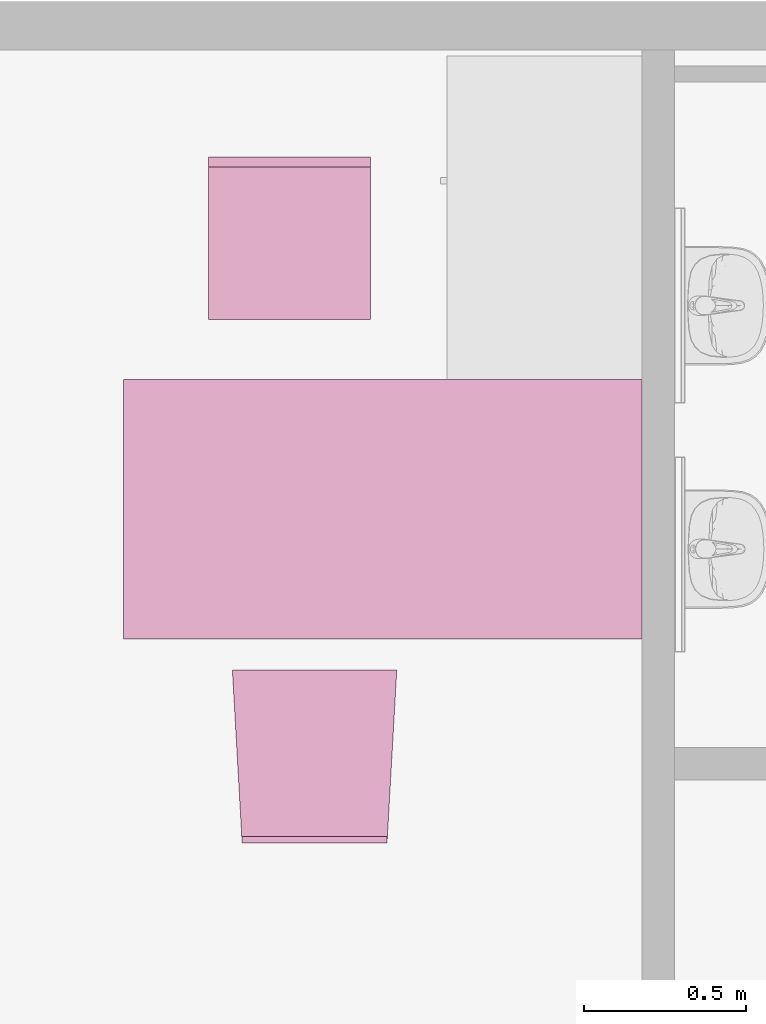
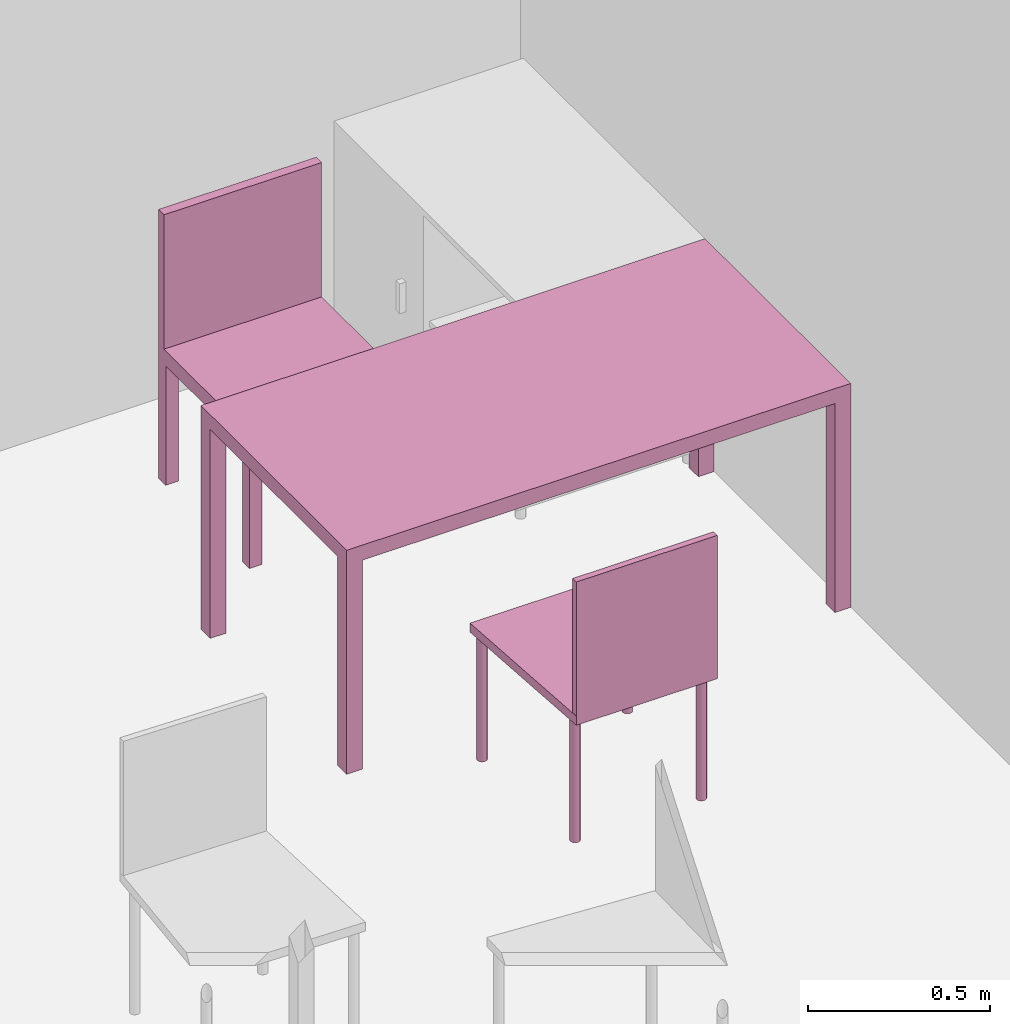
"""IFC4 building model written with IfcOpenShell, lengths in metres."""

from ifc_helpers import new_model, entity, si_unit, converted_unit, derived_unit, frame, origin, place, context, subcontext, project, spatial, faceted_brep, element, save


model = new_model("IFC4")

# Units and contexts
model_context = context("Model", 3, precision=1e-05, world=origin())
body_context = subcontext(model_context, "Body", "Model", "MODEL_VIEW")
ifc_project = project(units=[si_unit("LENGTHUNIT", "METRE"), si_unit("AREAUNIT", "SQUARE_METRE"), si_unit("VOLUMEUNIT", "CUBIC_METRE"), si_unit("MASSUNIT", "GRAM", prefix="KILO"), converted_unit("PLANEANGLEUNIT", "DEGREE", entity("IfcPlaneAngleMeasure", 0.0174532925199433), si_unit("PLANEANGLEUNIT", "RADIAN"), dimensions=[0, 0, 0, 0, 0, 0, 0]), derived_unit("THERMALTRANSMITTANCEUNIT", [(si_unit("POWERUNIT", "WATT"), 1), (si_unit("THERMODYNAMICTEMPERATUREUNIT", "KELVIN"), -1), (si_unit("LENGTHUNIT", "METRE"), -2)]), derived_unit("VOLUMETRICFLOWRATEUNIT", [(si_unit("LENGTHUNIT", "METRE"), 3), (converted_unit("TIMEUNIT", "hour", entity("IfcTimeMeasure", 3600.0), si_unit("TIMEUNIT", "SECOND"), dimensions=[0, 0, 1, 0, 0, 0, 0]), -1), (si_unit("LENGTHUNIT", "METRE"), -1)])], contexts=[model_context])

# Building, storeys
building_placement = place(None, origin())
building = spatial("IfcBuilding", under=ifc_project, at=building_placement, Name="HABITATGE PLURIFAMILIAR", CompositionType="ELEMENT")
storey_1_placement = place(building_placement, frame((0.0, 0.0, 6.25)))
storey_1 = spatial("IfcBuildingStorey", under=building, at=storey_1_placement, Name="PLANTA PRIMERA", CompositionType="ELEMENT", Elevation=6.25)
storey_2_placement = place(storey_1_placement, frame((0.0, 0.0, 3.35)))
storey_2 = spatial("IfcBuildingStorey", under=storey_1, at=storey_2_placement, Name="NOU", CompositionType="PARTIAL")

# Furniture
furniture_1_placement = place(storey_2_placement, frame((402.738874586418, 26.263451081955, -3.35)))
element("IfcFurniture", 1, at=furniture_1_placement, inside=storey_2, Name="Taula 160X80_P1", context=body_context, shape_type="Brep", body=[
    faceted_brep([(0.05, 0.05, 0.0), (0.0, 0.05, 0.0), (0.0, 0.0, 0.0), (0.05, 0.0, 0.0), (0.05, 0.0, 0.7), (0.0, 0.0, 0.7), (0.0, 0.05, 0.7), (0.05, 0.05, 0.7)], [[[0, 1, 2, 3]], [[4, 5, 6, 7]], [[3, 4, 7, 0]], [[2, 5, 4, 3]], [[1, 6, 5, 2]], [[0, 7, 6, 1]]], orient=[[False], [False], [False], [False], [False], [False]]),
    faceted_brep([(0.05, 0.800069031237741, 0.0), (0.0, 0.800069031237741, 0.0), (0.0, 0.750069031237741, 0.0), (0.05, 0.750069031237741, 0.0), (0.05, 0.750069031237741, 0.7), (0.0, 0.750069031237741, 0.7), (0.0, 0.800069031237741, 0.7), (0.05, 0.800069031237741, 0.7)], [[[0, 1, 2, 3]], [[4, 5, 6, 7]], [[3, 4, 7, 0]], [[2, 5, 4, 3]], [[1, 6, 5, 2]], [[0, 7, 6, 1]]], orient=[[False], [False], [False], [False], [False], [False]]),
    faceted_brep([(1.596945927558, 0.800069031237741, 0.7), (0.0, 0.800069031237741, 0.7), (0.0, 0.0, 0.7), (1.596945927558, 0.0, 0.7), (1.596945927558, 0.0, 0.75), (0.0, 0.0, 0.75), (0.0, 0.800069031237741, 0.75), (1.596945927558, 0.800069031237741, 0.75)], [[[0, 1, 2, 3]], [[4, 5, 6, 7]], [[3, 4, 7, 0]], [[2, 5, 4, 3]], [[1, 6, 5, 2]], [[0, 7, 6, 1]]], orient=[[False], [False], [False], [False], [False], [False]]),
    faceted_brep([(1.596945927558, 0.05, 0.0), (1.546945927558, 0.05, 0.0), (1.546945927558, 0.0, 0.0), (1.596945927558, 0.0, 0.0), (1.596945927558, 0.0, 0.7), (1.546945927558, 0.0, 0.7), (1.546945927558, 0.05, 0.7), (1.596945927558, 0.05, 0.7)], [[[0, 1, 2, 3]], [[4, 5, 6, 7]], [[3, 4, 7, 0]], [[2, 5, 4, 3]], [[1, 6, 5, 2]], [[0, 7, 6, 1]]], orient=[[False], [False], [False], [False], [False], [False]]),
    faceted_brep([(1.596945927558, 0.800069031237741, 0.0), (1.546945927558, 0.800069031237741, 0.0), (1.546945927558, 0.750069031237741, 0.0), (1.596945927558, 0.750069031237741, 0.0), (1.596945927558, 0.750069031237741, 0.7), (1.546945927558, 0.750069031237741, 0.7), (1.546945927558, 0.800069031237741, 0.7), (1.596945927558, 0.800069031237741, 0.7)], [[[0, 1, 2, 3]], [[4, 5, 6, 7]], [[3, 4, 7, 0]], [[2, 5, 4, 3]], [[1, 6, 5, 2]], [[0, 7, 6, 1]]], orient=[[False], [False], [False], [False], [False], [False]]),
])
furniture_2_placement = place(storey_2_placement, frame((402.999501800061, 27.2479803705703, -3.34942958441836)))
element("IfcFurniture", 2, at=furniture_2_placement, inside=storey_2, Name="Cadira d'Oficina_P1", context=body_context, shape_type="Brep", body=[
    faceted_brep([(0.0, 0.0, 0.4), (0.5, 0.0, 0.4), (0.5, 0.5, 0.4), (0.0, 0.5, 0.4), (0.0, 0.5, 0.45), (0.5, 0.5, 0.45), (0.5, 0.0, 0.45), (0.0, 0.0, 0.45)], [[[0, 1, 2, 3]], [[4, 5, 6, 7]], [[3, 4, 7, 0]], [[2, 5, 4, 3]], [[1, 6, 5, 2]], [[0, 7, 6, 1]]], orient=[[False], [False], [False], [False], [False], [False]]),
    faceted_brep([(0.5, 0.46, 0.0), (0.5, 0.5, 0.0), (0.46, 0.5, 0.0), (0.46, 0.46, 0.0), (0.46, 0.46, 0.4), (0.46, 0.5, 0.4), (0.5, 0.5, 0.4), (0.5, 0.46, 0.4)], [[[0, 1, 2, 3]], [[4, 5, 6, 7]], [[3, 4, 7, 0]], [[2, 5, 4, 3]], [[1, 6, 5, 2]], [[0, 7, 6, 1]]], orient=[[False], [False], [False], [False], [False], [False]]),
    faceted_brep([(0.5, 0.0, 0.0), (0.5, 0.04, 0.0), (0.46, 0.04, 0.0), (0.46, 0.0, 0.0), (0.46, 0.0, 0.4), (0.46, 0.04, 0.4), (0.5, 0.04, 0.4), (0.5, 0.0, 0.4)], [[[0, 1, 2, 3]], [[4, 5, 6, 7]], [[3, 4, 7, 0]], [[2, 5, 4, 3]], [[1, 6, 5, 2]], [[0, 7, 6, 1]]], orient=[[False], [False], [False], [False], [False], [False]]),
    faceted_brep([(0.04, 0.46, 0.0), (0.04, 0.5, 0.0), (0.0, 0.5, 0.0), (0.0, 0.46, 0.0), (0.0, 0.46, 0.4), (0.0, 0.5, 0.4), (0.04, 0.5, 0.4), (0.04, 0.46, 0.4)], [[[0, 1, 2, 3]], [[4, 5, 6, 7]], [[3, 4, 7, 0]], [[2, 5, 4, 3]], [[1, 6, 5, 2]], [[0, 7, 6, 1]]], orient=[[False], [False], [False], [False], [False], [False]]),
    faceted_brep([(0.04, 0.0, 0.0), (0.04, 0.04, 0.0), (0.0, 0.04, 0.0), (0.0, 0.0, 0.0), (0.0, 0.0, 0.4), (0.0, 0.04, 0.4), (0.04, 0.04, 0.4), (0.04, 0.0, 0.4)], [[[0, 1, 2, 3]], [[4, 5, 6, 7]], [[3, 4, 7, 0]], [[2, 5, 4, 3]], [[1, 6, 5, 2]], [[0, 7, 6, 1]]], orient=[[False], [False], [False], [False], [False], [False]]),
    faceted_brep([(0.5, 0.47, 0.45), (0.5, 0.5, 0.45), (0.0, 0.5, 0.45), (0.0, 0.47, 0.45), (0.0, 0.47, 0.9), (0.0, 0.5, 0.9), (0.5, 0.5, 0.9), (0.5, 0.47, 0.9)], [[[0, 1, 2, 3]], [[4, 5, 6, 7]], [[3, 4, 7, 0]], [[2, 5, 4, 3]], [[1, 6, 5, 2]], [[0, 7, 6, 1]]], orient=[[False], [False], [False], [False], [False], [False]]),
])
furniture_3_placement = place(storey_2_placement, frame((403.073837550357, 25.6352480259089, -3.35114412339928)))
element("IfcFurniture", 3, at=furniture_3_placement, inside=storey_2, Name="Cadira confient_P1", context=body_context, shape_type="Brep", body=[
    faceted_brep([(0.00928777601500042, 0.507575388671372, 0.0), (0.00950344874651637, 0.504980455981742, 0.0), (0.0101664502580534, 0.502462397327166, 0.0), (0.0112566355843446, 0.500097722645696, 0.0), (0.0127408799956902, 0.497958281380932, 0.0), (0.01457408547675, 0.496109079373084, 0.0), (0.0167005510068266, 0.494606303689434, 0.0), (0.0190556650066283, 0.493495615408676, 0.0), (0.0215678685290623, 0.492810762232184, 0.0), (0.0241608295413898, 0.492572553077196, 0.0), (0.0267557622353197, 0.492788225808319, 0.0), (0.0292738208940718, 0.493451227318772, 0.0), (0.0316384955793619, 0.49454141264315, 0.0), (0.0337779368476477, 0.496025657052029, 0.0), (0.0356271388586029, 0.497858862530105, 0.0), (0.0371299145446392, 0.499985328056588, 0.0), (0.0382406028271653, 0.502340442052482, 0.0), (0.0389254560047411, 0.504852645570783, 0.0), (0.0391636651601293, 0.507445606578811, 0.0), (0.0389479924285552, 0.510040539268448, 0.0), (0.0382849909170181, 0.512558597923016, 0.0), (0.0371948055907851, 0.514923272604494, 0.0), (0.0357105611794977, 0.517062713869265, 0.0), (0.0338773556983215, 0.518911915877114, 0.0), (0.0317508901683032, 0.520414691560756, 0.0), (0.0293957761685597, 0.521525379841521, 0.0), (0.0268835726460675, 0.522210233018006, 0.0), (0.0242906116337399, 0.522448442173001, 0.0), (0.02169567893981, 0.522232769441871, 0.0), (0.0191776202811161, 0.521569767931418, 0.0), (0.0168129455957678, 0.52047958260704, 0.0), (0.0146735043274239, 0.518995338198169, 0.0), (0.0128243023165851, 0.517162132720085, 0.0), (0.0113215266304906, 0.515035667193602, 0.0), (0.0102108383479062, 0.512680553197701, 0.0), (0.00952598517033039, 0.510168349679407, 0.0), (0.00928777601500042, 0.507575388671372, 0.448281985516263), (0.00952598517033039, 0.510168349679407, 0.448281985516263), (0.0102108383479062, 0.512680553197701, 0.448281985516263), (0.0113215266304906, 0.515035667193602, 0.448281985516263), (0.0128243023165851, 0.517162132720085, 0.448281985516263), (0.0146735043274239, 0.518995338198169, 0.448281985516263), (0.0168129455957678, 0.52047958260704, 0.448281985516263), (0.0191776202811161, 0.521569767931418, 0.448281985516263), (0.02169567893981, 0.522232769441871, 0.448281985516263), (0.0242906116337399, 0.522448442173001, 0.448281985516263), (0.0268835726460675, 0.522210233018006, 0.448281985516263), (0.0293957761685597, 0.521525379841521, 0.448281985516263), (0.0317508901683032, 0.520414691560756, 0.448281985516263), (0.0338773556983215, 0.518911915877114, 0.448281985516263), (0.0357105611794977, 0.517062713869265, 0.448281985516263), (0.0371948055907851, 0.514923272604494, 0.448281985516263), (0.0382849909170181, 0.512558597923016, 0.448281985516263), (0.0389479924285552, 0.510040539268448, 0.448281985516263), (0.0391636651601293, 0.507445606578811, 0.448281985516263), (0.0389254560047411, 0.504852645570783, 0.448281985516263), (0.0382406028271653, 0.502340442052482, 0.448281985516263), (0.0371299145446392, 0.499985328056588, 0.448281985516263), (0.0356271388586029, 0.497858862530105, 0.448281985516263), (0.0337779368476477, 0.496025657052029, 0.448281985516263), (0.0316384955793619, 0.49454141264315, 0.448281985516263), (0.0292738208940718, 0.493451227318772, 0.448281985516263), (0.0267557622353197, 0.492788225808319, 0.448281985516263), (0.0241608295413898, 0.492572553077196, 0.448281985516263), (0.0215678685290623, 0.492810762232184, 0.448281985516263), (0.0190556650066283, 0.493495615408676, 0.448281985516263), (0.0167005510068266, 0.494606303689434, 0.448281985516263), (0.01457408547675, 0.496109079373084, 0.448281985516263), (0.0127408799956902, 0.497958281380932, 0.448281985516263), (0.0112566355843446, 0.500097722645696, 0.448281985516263), (0.0101664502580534, 0.502462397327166, 0.448281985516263), (0.00950344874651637, 0.504980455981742, 0.448281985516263)], [[[0, 1, 2, 3, 4, 5, 6, 7, 8, 9, 10, 11, 12, 13, 14, 15, 16, 17, 18, 19, 20, 21, 22, 23, 24, 25, 26, 27, 28, 29, 30, 31, 32, 33, 34, 35]], [[36, 37, 38, 39, 40, 41, 42, 43, 44, 45, 46, 47, 48, 49, 50, 51, 52, 53, 54, 55, 56, 57, 58, 59, 60, 61, 62, 63, 64, 65, 66, 67, 68, 69, 70, 71]], [[1, 0, 36, 71]], [[2, 1, 71, 70]], [[3, 2, 70, 69]], [[4, 3, 69, 68]], [[5, 4, 68, 67]], [[6, 5, 67, 66]], [[7, 6, 66, 65]], [[8, 7, 65, 64]], [[9, 8, 64, 63]], [[10, 9, 63, 62]], [[11, 10, 62, 61]], [[12, 11, 61, 60]], [[13, 12, 60, 59]], [[14, 13, 59, 58]], [[15, 14, 58, 57]], [[16, 15, 57, 56]], [[17, 16, 56, 55]], [[18, 17, 55, 54]], [[19, 18, 54, 53]], [[20, 19, 53, 52]], [[21, 20, 52, 51]], [[22, 21, 51, 50]], [[23, 22, 50, 49]], [[24, 23, 49, 48]], [[25, 24, 48, 47]], [[26, 25, 47, 46]], [[27, 26, 46, 45]], [[28, 27, 45, 44]], [[29, 28, 44, 43]], [[30, 29, 43, 42]], [[31, 30, 42, 41]], [[32, 31, 41, 40]], [[33, 32, 40, 39]], [[34, 33, 39, 38]], [[35, 34, 38, 37]], [[0, 35, 37, 36]]], orient=[[False], [False], [False], [False], [False], [False], [False], [False], [False], [False], [False], [False], [False], [False], [False], [False], [False], [False], [False], [False], [False], [False], [False], [False], [False], [False], [False], [False], [False], [False], [False], [False], [False], [False], [False], [False], [False], [False]]),
    faceted_brep([(0.0369257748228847, 0.0451683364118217, 0.0), (0.0371414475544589, 0.0425734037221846, 0.0), (0.0378044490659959, 0.0400553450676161, 0.0), (0.0388946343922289, 0.0376906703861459, 0.0), (0.0403788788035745, 0.0355512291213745, 0.0), (0.0422120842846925, 0.0337020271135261, 0.0), (0.0443385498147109, 0.0321992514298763, 0.0), (0.0466936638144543, 0.031088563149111, 0.0), (0.0492058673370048, 0.0304037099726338, 0.0), (0.0517988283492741, 0.0301655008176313, 0.0), (0.054393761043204, 0.0303811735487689, 0.0), (0.0569118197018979, 0.0310441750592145, 0.0), (0.0592764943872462, 0.0321343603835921, 0.0), (0.0614159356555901, 0.0336186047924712, 0.0), (0.0632651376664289, 0.0354518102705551, 0.0), (0.0647679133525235, 0.0375782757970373, 0.0), (0.0658786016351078, 0.0399333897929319, 0.0), (0.0665634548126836, 0.0424455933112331, 0.0), (0.0668016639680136, 0.0450385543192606, 0.0), (0.0665859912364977, 0.0476334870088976, 0.0), (0.0659229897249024, 0.0501515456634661, 0.0), (0.0648328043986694, 0.0525162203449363, 0.0), (0.0633485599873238, 0.0546556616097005, 0.0), (0.061515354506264, 0.0565048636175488, 0.0), (0.0593888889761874, 0.0580076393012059, 0.0), (0.0570337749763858, 0.059118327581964, 0.0), (0.0545215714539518, 0.0598031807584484, 0.0), (0.0519286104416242, 0.0600413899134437, 0.0), (0.0493336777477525, 0.0598257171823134, 0.0), (0.0468156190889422, 0.0591627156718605, 0.0), (0.0444509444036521, 0.0580725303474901, 0.0), (0.0423115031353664, 0.0565882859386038, 0.0), (0.0404623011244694, 0.0547550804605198, 0.0), (0.0389595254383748, 0.0526286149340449, 0.0), (0.0378488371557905, 0.0502735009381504, 0.0), (0.0371639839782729, 0.0477612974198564, 0.0), (0.0369257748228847, 0.0451683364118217, 0.448281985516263), (0.0371639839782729, 0.0477612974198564, 0.448281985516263), (0.0378488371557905, 0.0502735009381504, 0.448281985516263), (0.0389595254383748, 0.0526286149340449, 0.448281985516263), (0.0404623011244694, 0.0547550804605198, 0.448281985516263), (0.0423115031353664, 0.0565882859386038, 0.448281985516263), (0.0444509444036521, 0.0580725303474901, 0.448281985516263), (0.0468156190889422, 0.0591627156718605, 0.448281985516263), (0.0493336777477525, 0.0598257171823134, 0.448281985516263), (0.0519286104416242, 0.0600413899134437, 0.448281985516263), (0.0545215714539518, 0.0598031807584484, 0.448281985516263), (0.0570337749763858, 0.059118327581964, 0.448281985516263), (0.0593888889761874, 0.0580076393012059, 0.448281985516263), (0.061515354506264, 0.0565048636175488, 0.448281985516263), (0.0633485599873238, 0.0546556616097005, 0.448281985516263), (0.0648328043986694, 0.0525162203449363, 0.448281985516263), (0.0659229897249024, 0.0501515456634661, 0.448281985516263), (0.0665859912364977, 0.0476334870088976, 0.448281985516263), (0.0668016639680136, 0.0450385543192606, 0.448281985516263), (0.0665634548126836, 0.0424455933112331, 0.448281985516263), (0.0658786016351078, 0.0399333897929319, 0.448281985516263), (0.0647679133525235, 0.0375782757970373, 0.448281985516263), (0.0632651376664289, 0.0354518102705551, 0.448281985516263), (0.0614159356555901, 0.0336186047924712, 0.448281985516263), (0.0592764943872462, 0.0321343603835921, 0.448281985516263), (0.0569118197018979, 0.0310441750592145, 0.448281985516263), (0.054393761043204, 0.0303811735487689, 0.448281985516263), (0.0517988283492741, 0.0301655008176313, 0.448281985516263), (0.0492058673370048, 0.0304037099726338, 0.448281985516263), (0.0466936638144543, 0.031088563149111, 0.448281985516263), (0.0443385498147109, 0.0321992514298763, 0.448281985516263), (0.0422120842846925, 0.0337020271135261, 0.448281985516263), (0.0403788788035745, 0.0355512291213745, 0.448281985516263), (0.0388946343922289, 0.0376906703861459, 0.448281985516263), (0.0378044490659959, 0.0400553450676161, 0.448281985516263), (0.0371414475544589, 0.0425734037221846, 0.448281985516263)], [[[0, 1, 2, 3, 4, 5, 6, 7, 8, 9, 10, 11, 12, 13, 14, 15, 16, 17, 18, 19, 20, 21, 22, 23, 24, 25, 26, 27, 28, 29, 30, 31, 32, 33, 34, 35]], [[36, 37, 38, 39, 40, 41, 42, 43, 44, 45, 46, 47, 48, 49, 50, 51, 52, 53, 54, 55, 56, 57, 58, 59, 60, 61, 62, 63, 64, 65, 66, 67, 68, 69, 70, 71]], [[1, 0, 36, 71]], [[2, 1, 71, 70]], [[3, 2, 70, 69]], [[4, 3, 69, 68]], [[5, 4, 68, 67]], [[6, 5, 67, 66]], [[7, 6, 66, 65]], [[8, 7, 65, 64]], [[9, 8, 64, 63]], [[10, 9, 63, 62]], [[11, 10, 62, 61]], [[12, 11, 61, 60]], [[13, 12, 60, 59]], [[14, 13, 59, 58]], [[15, 14, 58, 57]], [[16, 15, 57, 56]], [[17, 16, 56, 55]], [[18, 17, 55, 54]], [[19, 18, 54, 53]], [[20, 19, 53, 52]], [[21, 20, 52, 51]], [[22, 21, 51, 50]], [[23, 22, 50, 49]], [[24, 23, 49, 48]], [[25, 24, 48, 47]], [[26, 25, 47, 46]], [[27, 26, 46, 45]], [[28, 27, 45, 44]], [[29, 28, 44, 43]], [[30, 29, 43, 42]], [[31, 30, 42, 41]], [[32, 31, 41, 40]], [[33, 32, 40, 39]], [[34, 33, 39, 38]], [[35, 34, 38, 37]], [[0, 35, 37, 36]]], orient=[[False], [False], [False], [False], [False], [False], [False], [False], [False], [False], [False], [False], [False], [False], [False], [False], [False], [False], [False], [False], [False], [False], [False], [False], [False], [False], [False], [False], [False], [False], [False], [False], [False], [False], [False], [False], [False], [False]]),
    faceted_brep([(0.469287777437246, 0.507575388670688, 0.0), (0.469503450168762, 0.504980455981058, 0.0), (0.470166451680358, 0.502462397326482, 0.0), (0.471256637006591, 0.500097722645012, 0.0), (0.472740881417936, 0.497958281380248, 0.0), (0.474574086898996, 0.4961090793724, 0.0), (0.476700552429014, 0.49460630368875, 0.0), (0.479055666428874, 0.493495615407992, 0.0), (0.481567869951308, 0.4928107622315, 0.0), (0.484160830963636, 0.492572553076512, 0.0), (0.486755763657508, 0.492788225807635, 0.0), (0.489273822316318, 0.493451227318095, 0.0), (0.491638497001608, 0.494541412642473, 0.0), (0.493777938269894, 0.496025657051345, 0.0), (0.495627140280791, 0.497858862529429, 0.0), (0.497129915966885, 0.499985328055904, 0.0), (0.498240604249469, 0.502340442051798, 0.0), (0.498925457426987, 0.504852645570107, 0.0), (0.499163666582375, 0.507445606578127, 0.0), (0.498947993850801, 0.510040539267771, 0.0), (0.498284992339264, 0.512558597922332, 0.0), (0.497194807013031, 0.51492327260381, 0.0), (0.495710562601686, 0.517062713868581, 0.0), (0.493877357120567, 0.51891191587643, 0.0), (0.491750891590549, 0.52041469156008, 0.0), (0.489395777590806, 0.521525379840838, 0.0), (0.486883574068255, 0.522210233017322, 0.0), (0.484290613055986, 0.522448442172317, 0.0), (0.481695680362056, 0.522232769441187, 0.0), (0.479177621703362, 0.521569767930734, 0.0), (0.476812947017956, 0.520479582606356, 0.0), (0.47467350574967, 0.518995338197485, 0.0), (0.472824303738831, 0.517162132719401, 0.0), (0.471321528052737, 0.515035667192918, 0.0), (0.470210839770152, 0.512680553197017, 0.0), (0.469525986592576, 0.510168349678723, 0.0), (0.469287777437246, 0.507575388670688, 0.448281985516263), (0.469525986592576, 0.510168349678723, 0.448281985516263), (0.470210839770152, 0.512680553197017, 0.448281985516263), (0.471321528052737, 0.515035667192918, 0.448281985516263), (0.472824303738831, 0.517162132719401, 0.448281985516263), (0.47467350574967, 0.518995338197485, 0.448281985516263), (0.476812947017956, 0.520479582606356, 0.448281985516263), (0.479177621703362, 0.521569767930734, 0.448281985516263), (0.481695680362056, 0.522232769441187, 0.448281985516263), (0.484290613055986, 0.522448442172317, 0.448281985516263), (0.486883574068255, 0.522210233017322, 0.448281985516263), (0.489395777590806, 0.521525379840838, 0.448281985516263), (0.491750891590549, 0.52041469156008, 0.448281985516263), (0.493877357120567, 0.51891191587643, 0.448281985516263), (0.495710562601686, 0.517062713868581, 0.448281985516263), (0.497194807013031, 0.51492327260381, 0.448281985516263), (0.498284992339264, 0.512558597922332, 0.448281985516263), (0.498947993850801, 0.510040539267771, 0.448281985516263), (0.499163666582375, 0.507445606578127, 0.448281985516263), (0.498925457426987, 0.504852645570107, 0.448281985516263), (0.498240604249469, 0.502340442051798, 0.448281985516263), (0.497129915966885, 0.499985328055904, 0.448281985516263), (0.495627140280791, 0.497858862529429, 0.448281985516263), (0.493777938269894, 0.496025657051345, 0.448281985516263), (0.491638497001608, 0.494541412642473, 0.448281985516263), (0.489273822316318, 0.493451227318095, 0.448281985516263), (0.486755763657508, 0.492788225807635, 0.448281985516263), (0.484160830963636, 0.492572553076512, 0.448281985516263), (0.481567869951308, 0.4928107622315, 0.448281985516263), (0.479055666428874, 0.493495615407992, 0.448281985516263), (0.476700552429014, 0.49460630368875, 0.448281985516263), (0.474574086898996, 0.4961090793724, 0.448281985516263), (0.472740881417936, 0.497958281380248, 0.448281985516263), (0.471256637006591, 0.500097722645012, 0.448281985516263), (0.470166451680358, 0.502462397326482, 0.448281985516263), (0.469503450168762, 0.504980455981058, 0.448281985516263)], [[[0, 1, 2, 3, 4, 5, 6, 7, 8, 9, 10, 11, 12, 13, 14, 15, 16, 17, 18, 19, 20, 21, 22, 23, 24, 25, 26, 27, 28, 29, 30, 31, 32, 33, 34, 35]], [[36, 37, 38, 39, 40, 41, 42, 43, 44, 45, 46, 47, 48, 49, 50, 51, 52, 53, 54, 55, 56, 57, 58, 59, 60, 61, 62, 63, 64, 65, 66, 67, 68, 69, 70, 71]], [[1, 0, 36, 71]], [[2, 1, 71, 70]], [[3, 2, 70, 69]], [[4, 3, 69, 68]], [[5, 4, 68, 67]], [[6, 5, 67, 66]], [[7, 6, 66, 65]], [[8, 7, 65, 64]], [[9, 8, 64, 63]], [[10, 9, 63, 62]], [[11, 10, 62, 61]], [[12, 11, 61, 60]], [[13, 12, 60, 59]], [[14, 13, 59, 58]], [[15, 14, 58, 57]], [[16, 15, 57, 56]], [[17, 16, 56, 55]], [[18, 17, 55, 54]], [[19, 18, 54, 53]], [[20, 19, 53, 52]], [[21, 20, 52, 51]], [[22, 21, 51, 50]], [[23, 22, 50, 49]], [[24, 23, 49, 48]], [[25, 24, 48, 47]], [[26, 25, 47, 46]], [[27, 26, 46, 45]], [[28, 27, 45, 44]], [[29, 28, 44, 43]], [[30, 29, 43, 42]], [[31, 30, 42, 41]], [[32, 31, 41, 40]], [[33, 32, 40, 39]], [[34, 33, 39, 38]], [[35, 34, 38, 37]], [[0, 35, 37, 36]]], orient=[[False], [False], [False], [False], [False], [False], [False], [False], [False], [False], [False], [False], [False], [False], [False], [False], [False], [False], [False], [False], [False], [False], [False], [False], [False], [False], [False], [False], [False], [False], [False], [False], [False], [False], [False], [False], [False], [False]]),
    faceted_brep([(0.436925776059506, 0.0451683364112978, 0.0), (0.437141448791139, 0.0425734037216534, 0.0), (0.437804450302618, 0.0400553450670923, 0.0), (0.438894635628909, 0.0376906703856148, 0.0), (0.440378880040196, 0.0355512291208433, 0.0), (0.442212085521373, 0.033702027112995, 0.0), (0.444338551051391, 0.0321992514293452, 0.0), (0.446693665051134, 0.0310885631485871, 0.0), (0.449205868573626, 0.0304037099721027, 0.0), (0.451798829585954, 0.0301655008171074, 0.0), (0.454393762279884, 0.0303811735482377, 0.0), (0.456911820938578, 0.0310441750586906, 0.0), (0.459276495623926, 0.0321343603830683, 0.0), (0.461415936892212, 0.03361860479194, 0.0), (0.463265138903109, 0.035451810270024, 0.0), (0.464767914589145, 0.0375782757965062, 0.0), (0.46587860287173, 0.039933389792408, 0.0), (0.466563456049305, 0.042445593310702, 0.0), (0.466801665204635, 0.0450385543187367, 0.0), (0.466585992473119, 0.0476334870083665, 0.0), (0.465922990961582, 0.0501515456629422, 0.0), (0.464832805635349, 0.0525162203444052, 0.0), (0.463348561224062, 0.0546556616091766, 0.0), (0.461515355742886, 0.056504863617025, 0.0), (0.459388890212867, 0.0580076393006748, 0.0), (0.457033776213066, 0.0591183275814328, 0.0), (0.454521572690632, 0.0598031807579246, 0.0), (0.451928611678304, 0.0600413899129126, 0.0), (0.449333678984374, 0.0598257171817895, 0.0), (0.446815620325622, 0.0591627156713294, 0.0), (0.444450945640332, 0.0580725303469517, 0.0), (0.442311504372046, 0.0565882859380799, 0.0), (0.440462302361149, 0.054755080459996, 0.0), (0.438959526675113, 0.052628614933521, 0.0), (0.437848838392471, 0.0502735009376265, 0.0), (0.437163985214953, 0.047761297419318, 0.0), (0.436925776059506, 0.0451683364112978, 0.448281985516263), (0.437163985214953, 0.047761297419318, 0.448281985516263), (0.437848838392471, 0.0502735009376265, 0.448281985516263), (0.438959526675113, 0.052628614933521, 0.448281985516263), (0.440462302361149, 0.054755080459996, 0.448281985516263), (0.442311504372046, 0.0565882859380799, 0.448281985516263), (0.444450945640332, 0.0580725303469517, 0.448281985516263), (0.446815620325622, 0.0591627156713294, 0.448281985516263), (0.449333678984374, 0.0598257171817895, 0.448281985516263), (0.451928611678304, 0.0600413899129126, 0.448281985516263), (0.454521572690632, 0.0598031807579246, 0.448281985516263), (0.457033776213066, 0.0591183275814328, 0.448281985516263), (0.459388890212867, 0.0580076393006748, 0.448281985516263), (0.461515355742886, 0.056504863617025, 0.448281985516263), (0.463348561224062, 0.0546556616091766, 0.448281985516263), (0.464832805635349, 0.0525162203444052, 0.448281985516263), (0.465922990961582, 0.0501515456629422, 0.448281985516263), (0.466585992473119, 0.0476334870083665, 0.448281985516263), (0.466801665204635, 0.0450385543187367, 0.448281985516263), (0.466563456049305, 0.042445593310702, 0.448281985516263), (0.46587860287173, 0.039933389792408, 0.448281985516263), (0.464767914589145, 0.0375782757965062, 0.448281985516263), (0.463265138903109, 0.035451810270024, 0.448281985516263), (0.461415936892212, 0.03361860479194, 0.448281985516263), (0.459276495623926, 0.0321343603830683, 0.448281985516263), (0.456911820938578, 0.0310441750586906, 0.448281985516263), (0.454393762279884, 0.0303811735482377, 0.448281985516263), (0.451798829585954, 0.0301655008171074, 0.448281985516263), (0.449205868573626, 0.0304037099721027, 0.448281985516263), (0.446693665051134, 0.0310885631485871, 0.448281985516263), (0.444338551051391, 0.0321992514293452, 0.448281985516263), (0.442212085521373, 0.033702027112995, 0.448281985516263), (0.440378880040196, 0.0355512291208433, 0.448281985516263), (0.438894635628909, 0.0376906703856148, 0.448281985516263), (0.437804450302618, 0.0400553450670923, 0.448281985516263), (0.437141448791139, 0.0425734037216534, 0.448281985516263)], [[[0, 1, 2, 3, 4, 5, 6, 7, 8, 9, 10, 11, 12, 13, 14, 15, 16, 17, 18, 19, 20, 21, 22, 23, 24, 25, 26, 27, 28, 29, 30, 31, 32, 33, 34, 35]], [[36, 37, 38, 39, 40, 41, 42, 43, 44, 45, 46, 47, 48, 49, 50, 51, 52, 53, 54, 55, 56, 57, 58, 59, 60, 61, 62, 63, 64, 65, 66, 67, 68, 69, 70, 71]], [[1, 0, 36, 71]], [[2, 1, 71, 70]], [[3, 2, 70, 69]], [[4, 3, 69, 68]], [[5, 4, 68, 67]], [[6, 5, 67, 66]], [[7, 6, 66, 65]], [[8, 7, 65, 64]], [[9, 8, 64, 63]], [[10, 9, 63, 62]], [[11, 10, 62, 61]], [[12, 11, 61, 60]], [[13, 12, 60, 59]], [[14, 13, 59, 58]], [[15, 14, 58, 57]], [[16, 15, 57, 56]], [[17, 16, 56, 55]], [[18, 17, 55, 54]], [[19, 18, 54, 53]], [[20, 19, 53, 52]], [[21, 20, 52, 51]], [[22, 21, 51, 50]], [[23, 22, 50, 49]], [[24, 23, 49, 48]], [[25, 24, 48, 47]], [[26, 25, 47, 46]], [[27, 26, 46, 45]], [[28, 27, 45, 44]], [[29, 28, 44, 43]], [[30, 29, 43, 42]], [[31, 30, 42, 41]], [[32, 31, 41, 40]], [[33, 32, 40, 39]], [[34, 33, 39, 38]], [[35, 34, 38, 37]], [[0, 35, 37, 36]]], orient=[[False], [False], [False], [False], [False], [False], [False], [False], [False], [False], [False], [False], [False], [False], [False], [False], [False], [False], [False], [False], [False], [False], [False], [False], [False], [False], [False], [False], [False], [False], [False], [False], [False], [False], [False], [False], [False], [False]]),
    faceted_brep([(0.476514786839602, 0.0, 0.418281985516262), (0.506514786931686, 0.532607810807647, 0.418281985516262), (0.0, 0.532607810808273, 0.418281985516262), (0.0300000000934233, 0.0, 0.418281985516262), (0.506514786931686, 0.532607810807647, 0.448281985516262), (0.476514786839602, 0.0, 0.448281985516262), (0.0300000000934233, 0.0, 0.448281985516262), (0.0, 0.532607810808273, 0.448281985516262)], [[[0, 1, 2, 3]], [[4, 5, 6, 7]], [[1, 0, 5, 4]], [[2, 1, 4, 7]], [[3, 2, 7, 6]], [[0, 3, 6, 5]]], orient=[[False], [False], [False], [False], [False], [False]]),
    faceted_brep([(0.476514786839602, 0.02000000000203, 0.448281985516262), (0.0300000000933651, 0.0200000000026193, 0.448281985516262), (0.0300000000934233, 0.0, 0.448281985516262), (0.476514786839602, 0.0, 0.448281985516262), (0.0300000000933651, 0.0200000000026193, 0.898281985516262), (0.476514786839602, 0.02000000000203, 0.898281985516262), (0.476514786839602, 0.0, 0.898281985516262), (0.0300000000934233, 0.0, 0.898281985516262)], [[[0, 1, 2, 3]], [[4, 5, 6, 7]], [[1, 0, 5, 4]], [[2, 1, 4, 7]], [[3, 2, 7, 6]], [[0, 3, 6, 5]]], orient=[[False], [False], [False], [False], [False], [False]]),
])

save(model, "model.ifc")
